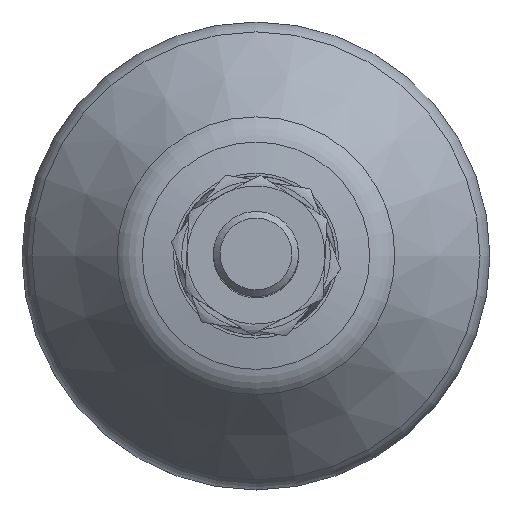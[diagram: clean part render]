
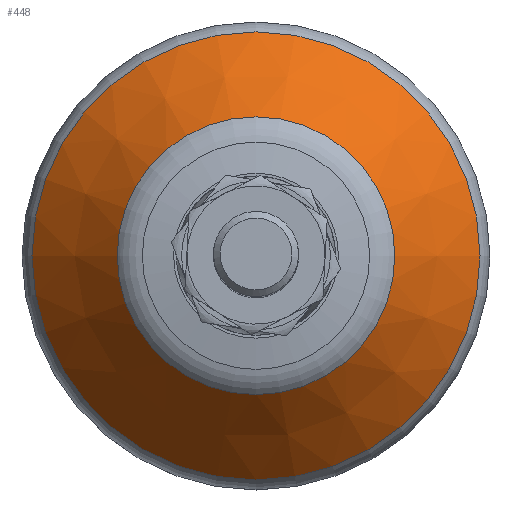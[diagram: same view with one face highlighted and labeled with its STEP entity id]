
A CAD part, top view. The second image highlights one B-rep face of the part: STEP entity #448.
In plain terms, the highlighted conical face has half-angle 40 degrees and reference radius 13.057 mm.
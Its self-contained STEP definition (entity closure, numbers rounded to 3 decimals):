
#448=ADVANCED_FACE('',(#767,#768),#769,.T.);
#767=FACE_BOUND('',#1055,.T.);
#768=FACE_OUTER_BOUND('',#1056,.T.);
#769=CONICAL_SURFACE('',#1057,13.057,0.698);
#1055=EDGE_LOOP('',(#1678));
#1056=EDGE_LOOP('',(#1679));
#1057=AXIS2_PLACEMENT_3D('',#1680,#1681,#1682);
#1678=ORIENTED_EDGE('',*,*,#1891,.T.);
#1679=ORIENTED_EDGE('',*,*,#1910,.F.);
#1680=CARTESIAN_POINT('',(0.0,0.0,16.114));
#1681=DIRECTION('',(-0.0,0.0,-1.0));
#1682=DIRECTION('',(-1.0,0.0,0.0));
#1891=EDGE_CURVE('',#2211,#2211,#2212,.T.);
#1910=EDGE_CURVE('',#2240,#2240,#2241,.T.);
#2211=VERTEX_POINT('',#3105);
#2212=CIRCLE('',#3106,13.057);
#2240=VERTEX_POINT('',#3134);
#2241=CIRCLE('',#3135,21.064);
#3105=CARTESIAN_POINT('',(-13.057,0.0,16.114));
#3106=AXIS2_PLACEMENT_3D('',#3359,#3360,#3361);
#3134=CARTESIAN_POINT('',(-21.064,0.0,6.571));
#3135=AXIS2_PLACEMENT_3D('',#3389,#3390,#3391);
#3359=CARTESIAN_POINT('',(0.0,0.0,16.114));
#3360=DIRECTION('',(0.0,0.0,-1.0));
#3361=DIRECTION('',(-1.0,0.0,0.0));
#3389=CARTESIAN_POINT('',(0.0,0.0,6.571));
#3390=DIRECTION('',(0.0,0.0,-1.0));
#3391=DIRECTION('',(-1.0,0.0,0.0));
